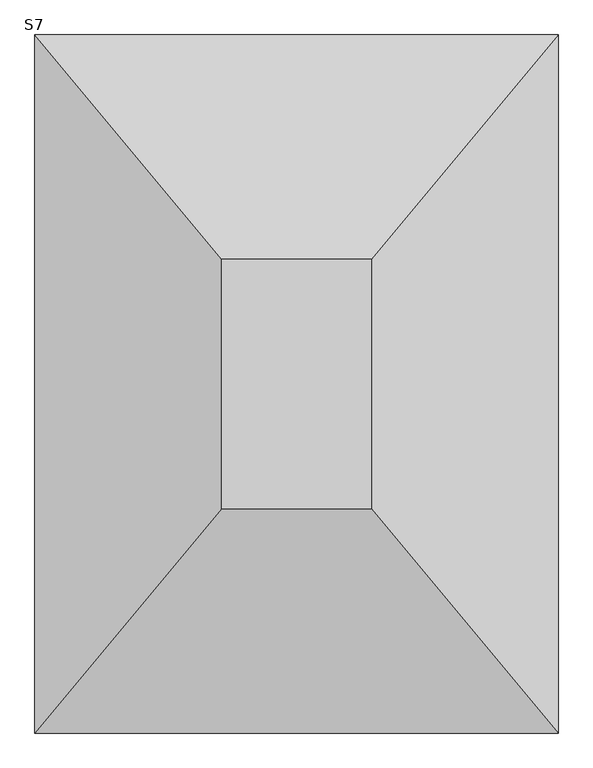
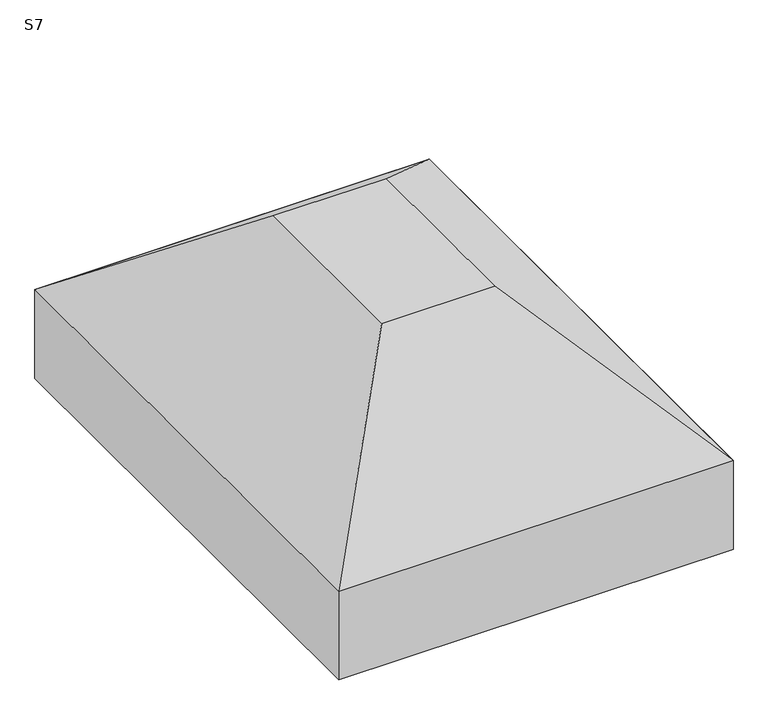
"""IFC4 building model written with IfcOpenShell, lengths in millimetres: fastener geometry, TQS - Sapata : S7."""

from ifc_helpers import new_model, si_unit, frame, origin, place, context, project, spatial, polyline, outline, extrude, faceted_brep, source, transform, mapped, element, save


def s7_8c5de983(model_context):
    return source(origin(), model_context, "Body", "SolidModel", [
        faceted_brep([(-50.0, 50.0, 0.0), (-350.0, 50.0, 0.0), (-350.0, -450.0, 0.0), (-50.0, -450.0, 0.0), (325.0, 500.0, -350.0), (325.0, -900.0, -350.0), (-725.0, -900.0, -350.0), (-725.0, 500.0, -350.0)], [[[0, 1, 2, 3]], [[4, 5, 6, 7]], [[4, 7, 1, 0]], [[7, 6, 2, 1]], [[6, 5, 3, 2]], [[5, 4, 0, 3]]]),
        extrude(outline(polyline([(325.0, 500.0), (325.0, -900.0), (-725.0, -900.0), (-725.0, 500.0), (325.0, 500.0)])), frame((0.0, 0.0, -600.0), z_axis=(0.0, 0.0, 1.0), x_axis=(1.0, 0.0, 0.0)), (0.0, 0.0, 1.0), 250.0),
    ])


if __name__ == "__main__":
    model = new_model("IFC4")
    model_context = context("Model", 3, world=origin())
    ifc_project = project(units=[si_unit("LENGTHUNIT", "METRE", prefix="MILLI")], contexts=[model_context])
    site = spatial("IfcSite", under=ifc_project)
    building = spatial("IfcBuilding", under=site)
    placement = place(None, origin())
    s7_shape = s7_8c5de983(model_context)
    element("IfcFastener", 1, ObjectType="TQS - Sapata : S7", at=placement, inside=building, context=model_context, shape_type="MappedRepresentation", body=[
        mapped(s7_shape, transform((0.0, 0.0, 0.0), x_axis=(1.0, 0.0, 0.0), y_axis=(0.0, 1.0, 0.0), z_axis=(0.0, 0.0, 1.0))),
    ])
    save(model, "model.ifc")
